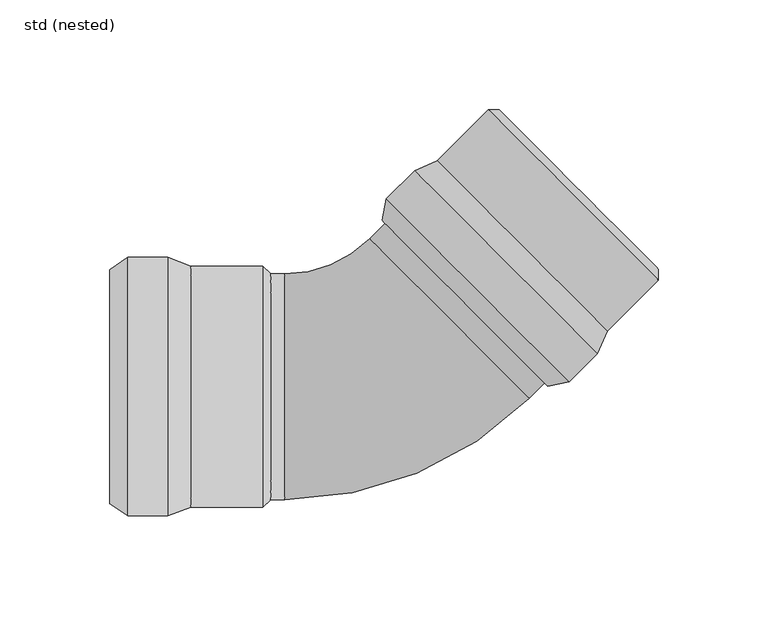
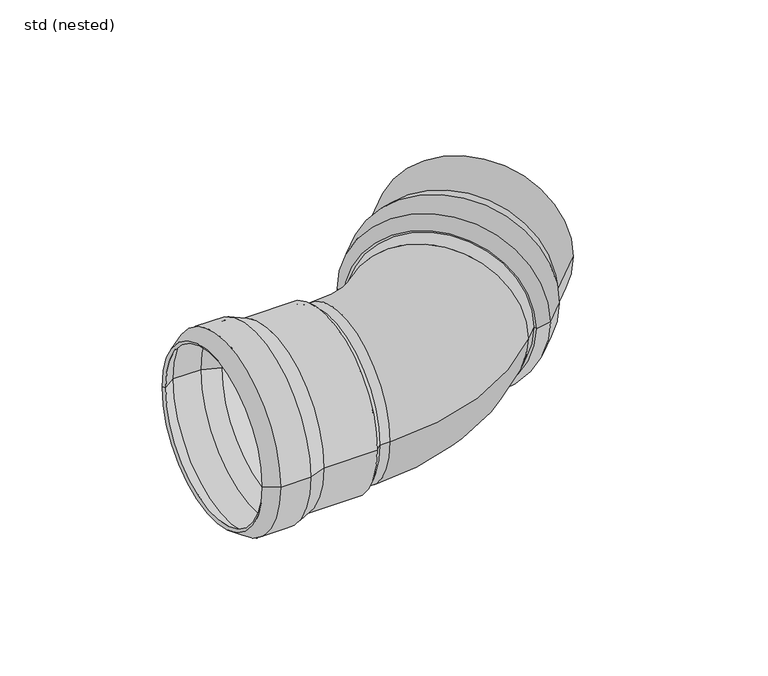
"""IFC4 building model written with IfcOpenShell, lengths in millimetres: pipe fitting geometry, ZZZ_do not use_PIF_ST_UN_GM-X pipe bend_ACO : std (nested)."""

from ifc_helpers import new_model, si_unit, point, frame, origin, place, context, project, spatial, polyline, circle_curve, ellipse_curve, trimmed, source, transform, mapped, element, save
from ifc_brep_helpers import plane_surface, cylinder_surface, revolved_surface, advanced_brep


def std_nested_ee2d5be1(model_context):
    return source(origin(), model_context, "Body", "AdvancedBrep", [
        advanced_brep(
        [(15.2631369, 98.6320772, 0.0), (98.6506778, 15.142449, 0.0), (85.773464, 2.2809808, 0.0), (2.3859231, 85.770609, 0.0), (25.518995, 103.2219981, 0.0), (103.2531434, 25.3926837, 0.0), (76.014181, 0.3070517, 0.0), (0.4000549, 76.0137485, 0.0), (48.8677894, 126.5422426, 0.0), (126.6019377, 48.7129282, 0.0), (53.8175359, 126.5392146, 0.0), (126.6049657, 53.6626747, 0.0), (51.3411486, 124.0658553, 0.0), (124.1285784, 51.1893155, 0.0), (26.6719325, 101.5468274, 0.0), (101.5793845, 26.5476698, 0.0), (125.1885895, 50.1280066, 0.0), (50.2811375, 125.1271642, 0.0), (16.4160743, 96.9569065, 0.0), (96.976919, 16.2974352, 0.0), (4.2255719, 84.78131, 0.0), (84.7864165, 4.1218387, 0.0), (2.3598725, 75.6148559, 0.0), (75.6176866, 2.2673558, 0.0)],
        [
            (0, 1, circle_curve(frame((56.9569074, 56.8872631, 0.0), z_axis=(-0.7075392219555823, -0.7066740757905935, 0.0), x_axis=(0.7066740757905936, -0.7075392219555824, 0.0)), 59.0)),
            (1, 2),
            (2, 3, circle_curve(frame((44.0796935, 44.0257949, 0.0), z_axis=(0.7075392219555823, 0.7066740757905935, 0.0), x_axis=(0.7066740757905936, -0.7075392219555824, 0.0)), 59.0)),
            (3, 0),
            (1, 0, circle_curve(frame((56.9569074, 56.8872631, 0.0), z_axis=(-0.7075392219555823, -0.7066740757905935, 0.0), x_axis=(0.7066740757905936, -0.7075392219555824, 0.0)), 59.0)),
            (3, 2, circle_curve(frame((44.0796935, 44.0257949, 0.0), z_axis=(0.7075392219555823, 0.7066740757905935, 0.0), x_axis=(0.7066740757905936, -0.7075392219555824, 0.0)), 59.0)),
            (4, 5, circle_curve(frame((64.3860692, 64.3073409, 0.0), z_axis=(-0.7075392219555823, -0.7066740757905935, 0.0), x_axis=(0.7066740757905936, -0.7075392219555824, 0.0)), 55.0)),
            (5, 1),
            (0, 4),
            (5, 4, circle_curve(frame((64.3860692, 64.3073409, 0.0), z_axis=(-0.7075392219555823, -0.7066740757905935, 0.0), x_axis=(0.7066740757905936, -0.7075392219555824, 0.0)), 55.0)),
            (2, 6),
            (6, 7, circle_curve(frame((38.207118, 38.1604001, 0.0), z_axis=(0.7075392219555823, 0.7066740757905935, 0.0), x_axis=(0.7066740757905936, -0.7075392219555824, 0.0)), 53.5)),
            (7, 3),
            (7, 6, circle_curve(frame((38.207118, 38.1604001, 0.0), z_axis=(0.7075392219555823, 0.7066740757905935, 0.0), x_axis=(0.7066740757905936, -0.7075392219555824, 0.0)), 53.5)),
            (8, 9, circle_curve(frame((87.7348635, 87.6275854, 0.0), z_axis=(-0.7075392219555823, -0.7066740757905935, 0.0), x_axis=(0.7066740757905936, -0.7075392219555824, 0.0)), 55.0)),
            (9, 5),
            (4, 8),
            (9, 8, circle_curve(frame((87.7348635, 87.6275854, 0.0), z_axis=(-0.7075392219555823, -0.7066740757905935, 0.0), x_axis=(0.7066740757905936, -0.7075392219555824, 0.0)), 55.0)),
            (10, 11, circle_curve(frame((90.2112508, 90.1009447, 0.0), z_axis=(-0.7075392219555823, -0.7066740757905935, 0.0), x_axis=(0.7066740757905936, -0.7075392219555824, 0.0)), 51.5)),
            (11, 9),
            (8, 10),
            (11, 10, circle_curve(frame((90.2112508, 90.1009447, 0.0), z_axis=(-0.7075392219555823, -0.7066740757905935, 0.0), x_axis=(0.7066740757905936, -0.7075392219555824, 0.0)), 51.5)),
            (12, 13, circle_curve(frame((87.7348635, 87.6275854, 0.0), z_axis=(-0.7075392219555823, -0.7066740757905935, 0.0), x_axis=(0.7066740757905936, -0.7075392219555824, 0.0)), 51.5)),
            (13, 11),
            (10, 12),
            (13, 12, circle_curve(frame((87.7348635, 87.6275854, 0.0), z_axis=(-0.7075392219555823, -0.7066740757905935, 0.0), x_axis=(0.7066740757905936, -0.7075392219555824, 0.0)), 51.5)),
            (14, 15, circle_curve(frame((64.1256585, 64.0472486, 0.0), z_axis=(-0.7075392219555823, -0.7066740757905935, 0.0), x_axis=(0.7066740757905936, -0.7075392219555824, 0.0)), 53.0)),
            (15, 16),
            (16, 17, circle_curve(frame((87.7348635, 87.6275854, 0.0), z_axis=(0.7075392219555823, 0.7066740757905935, 0.0), x_axis=(0.7066740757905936, -0.7075392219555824, 0.0)), 53.0)),
            (17, 14),
            (15, 14, circle_curve(frame((64.1256585, 64.0472486, 0.0), z_axis=(-0.7075392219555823, -0.7066740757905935, 0.0), x_axis=(0.7066740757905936, -0.7075392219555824, 0.0)), 53.0)),
            (17, 16, circle_curve(frame((87.7348635, 87.6275854, 0.0), z_axis=(0.7075392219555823, 0.7066740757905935, 0.0), x_axis=(0.7066740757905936, -0.7075392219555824, 0.0)), 53.0)),
            (18, 19, circle_curve(frame((56.6964967, 56.6271708, 0.0), z_axis=(-0.7075392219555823, -0.7066740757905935, 0.0), x_axis=(0.7066740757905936, -0.7075392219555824, 0.0)), 57.0)),
            (19, 15),
            (14, 18),
            (19, 18, circle_curve(frame((56.6964967, 56.6271708, 0.0), z_axis=(-0.7075392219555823, -0.7066740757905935, 0.0), x_axis=(0.7066740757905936, -0.7075392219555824, 0.0)), 57.0)),
            (20, 21, circle_curve(frame((44.5059942, 44.4515743, 0.0), z_axis=(-0.7075392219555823, -0.7066740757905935, 0.0), x_axis=(0.7066740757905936, -0.7075392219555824, 0.0)), 57.0)),
            (21, 19),
            (18, 20),
            (21, 20, circle_curve(frame((44.5059942, 44.4515743, 0.0), z_axis=(-0.7075392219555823, -0.7066740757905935, 0.0), x_axis=(0.7066740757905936, -0.7075392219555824, 0.0)), 57.0)),
            (22, 23, circle_curve(frame((38.9887795, 38.9411059, 0.0), z_axis=(-0.7075392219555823, -0.7066740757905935, 0.0), x_axis=(0.7066740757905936, -0.7075392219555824, 0.0)), 51.8328156)),
            (23, 21),
            (20, 22),
            (23, 22, circle_curve(frame((38.9887795, 38.9411059, 0.0), z_axis=(-0.7075392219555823, -0.7066740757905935, 0.0), x_axis=(0.7066740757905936, -0.7075392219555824, 0.0)), 51.8328156)),
            (6, 23),
            (22, 7),
            (16, 13),
            (12, 17),
        ],
        [
            cylinder_surface(frame((40.5813283, 40.5317074, 0.0), z_axis=(0.7075392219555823, 0.7066740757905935, 0.0), x_axis=(0.7066740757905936, -0.7075392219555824, 0.0)), 59.0),
            revolved_surface(polyline([(98.6506778, 15.142449, 0.0), (103.2531434, 25.3926837, 0.0)]), (40.5813283, 40.5317074, 0.0), (0.7075392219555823, 0.7066740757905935, 0.0)),
            revolved_surface(polyline([(76.014181, 0.3070517, 0.0), (85.773464, 2.2809808, 0.0)]), (40.5813283, 40.5317074, 0.0), (0.7075392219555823, 0.7066740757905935, 0.0)),
            cylinder_surface(frame((40.5813283, 40.5317074, 0.0), z_axis=(0.7075392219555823, 0.7066740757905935, 0.0), x_axis=(0.7066740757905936, -0.7075392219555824, 0.0)), 55.0),
            revolved_surface(polyline([(126.6019377, 48.7129282, 0.0), (126.6049657, 53.6626747, 0.0)]), (40.5813283, 40.5317074, 0.0), (0.7075392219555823, 0.7066740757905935, 0.0)),
            revolved_surface(polyline([(126.6049656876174, 53.66267478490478, 0.0), (124.12857836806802, 51.189315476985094, 0.0)]), (40.5813283, 40.5317074, 0.0), (0.7075392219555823, 0.7066740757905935, 0.0)),
            revolved_surface(polyline([(125.18858952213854, 50.12800668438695, 0.0), (101.57938444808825, 26.547669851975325, 0.0)]), (40.5813283, 40.5317074, 0.0), (0.7075392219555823, 0.7066740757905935, 0.0)),
            revolved_surface(polyline([(101.5793845, 26.5476698, 0.0), (96.976919, 16.2974352, 0.0)]), (40.5813283, 40.5317074, 0.0), (0.7075392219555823, 0.7066740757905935, 0.0)),
            revolved_surface(polyline([(96.97691897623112, 16.297435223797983, 0.0), (84.78641646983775, 4.121838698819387, 0.0)]), (40.5813283, 40.5317074, 0.0), (0.7075392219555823, 0.7066740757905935, 0.0)),
            revolved_surface(polyline([(84.7864165, 4.1218387, 0.0), (75.6176866, 2.2673558, 0.0)]), (40.5813283, 40.5317074, 0.0), (0.7075392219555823, 0.7066740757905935, 0.0)),
            revolved_surface(polyline([(75.6176866, 2.2673558, 0.0), (76.014181, 0.3070517, 0.0)]), (40.5813283, 40.5317074, 0.0), (0.7075392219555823, 0.7066740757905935, 0.0)),
            plane_surface(frame((87.7348635, 87.6275854, 0.0), z_axis=(-0.7075392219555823, -0.7066740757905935, 0.0), x_axis=(0.7066740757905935, -0.7075392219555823, 0.0))),
        ],
        [
            (0, [[1, 2, 3, 4]]),
            (0, [[5, -4, 6, -2]]),
            (1, [[7, 8, -1, 9]]),
            (1, [[10, -9, -5, -8]]),
            (2, [[-3, 11, 12, 13]]),
            (2, [[-6, -13, 14, -11]]),
            (3, [[15, 16, -7, 17]]),
            (3, [[18, -17, -10, -16]]),
            (4, [[19, 20, -15, 21]]),
            (4, [[22, -21, -18, -20]]),
            (5, [[23, 24, -19, 25]]),
            (5, [[26, -25, -22, -24]]),
            (6, [[27, 28, 29, 30]]),
            (6, [[31, -30, 32, -28]]),
            (7, [[33, 34, -27, 35]]),
            (7, [[36, -35, -31, -34]]),
            (8, [[37, 38, -33, 39]]),
            (8, [[40, -39, -36, -38]]),
            (9, [[41, 42, -37, 43]]),
            (9, [[44, -43, -40, -42]]),
            (10, [[-12, 45, -41, 46]]),
            (10, [[-14, -46, -44, -45]]),
            (11, [[-29, 47, -23, 48]]),
            (11, [[-32, -48, -26, -47]]),
        ],
    ),
        advanced_brep(
        [(-97.5, 59.0, 0.0), (-97.5, -59.0, 0.0), (-115.7, -59.0, 0.0), (-115.7, 59.0, 0.0), (-87.0, 55.0, 0.0), (-87.0, -55.0, 0.0), (-124.0, -53.5, 0.0), (-124.0, 53.5, 0.0), (-54.0, 55.0, 0.0), (-54.0, -55.0, 0.0), (-50.5, 51.5, 0.0), (-50.5, -51.5, 0.0), (-54.0, 51.5, 0.0), (-54.0, -51.5, 0.0), (-87.3680513, 53.0, 0.0), (-87.3680513, -53.0, 0.0), (-54.0, -53.0, 0.0), (-54.0, 53.0, 0.0), (-97.8680513, 57.0, 0.0), (-97.8680513, -57.0, 0.0), (-115.0974883, 57.0, 0.0), (-115.0974883, -57.0, 0.0), (-122.8952393, 51.8328156, 0.0), (-122.8952393, -51.8328156, 0.0)],
        [
            (0, 1, circle_curve(frame((-97.5, 0.0, 0.0), z_axis=(-1.0, 0.0, 0.0), x_axis=(0.0, -1.0, 0.0)), 59.0)),
            (1, 2),
            (2, 3, circle_curve(frame((-115.7, 0.0, 0.0), z_axis=(1.0, 0.0, 0.0), x_axis=(0.0, -1.0, 0.0)), 59.0)),
            (3, 0),
            (1, 0, circle_curve(frame((-97.5, 0.0, 0.0), z_axis=(-1.0, 0.0, 0.0), x_axis=(0.0, -1.0, 0.0)), 59.0)),
            (3, 2, circle_curve(frame((-115.7, 0.0, 0.0), z_axis=(1.0, 0.0, 0.0), x_axis=(0.0, -1.0, 0.0)), 59.0)),
            (4, 5, circle_curve(frame((-87.0, 0.0, 0.0), z_axis=(-1.0, 0.0, 0.0), x_axis=(0.0, -1.0, 0.0)), 55.0)),
            (5, 1),
            (0, 4),
            (5, 4, circle_curve(frame((-87.0, 0.0, 0.0), z_axis=(-1.0, 0.0, 0.0), x_axis=(0.0, -1.0, 0.0)), 55.0)),
            (2, 6),
            (6, 7, circle_curve(frame((-124.0, 0.0, 0.0), z_axis=(1.0, 0.0, 0.0), x_axis=(0.0, -1.0, 0.0)), 53.5)),
            (7, 3),
            (7, 6, circle_curve(frame((-124.0, 0.0, 0.0), z_axis=(1.0, 0.0, 0.0), x_axis=(0.0, -1.0, 0.0)), 53.5)),
            (8, 9, circle_curve(frame((-54.0, 0.0, 0.0), z_axis=(-1.0, 0.0, 0.0), x_axis=(0.0, -1.0, 0.0)), 55.0)),
            (9, 5),
            (4, 8),
            (9, 8, circle_curve(frame((-54.0, 0.0, 0.0), z_axis=(-1.0, 0.0, 0.0), x_axis=(0.0, -1.0, 0.0)), 55.0)),
            (10, 11, circle_curve(frame((-50.5, 0.0, 0.0), z_axis=(-1.0, 0.0, 0.0), x_axis=(0.0, -1.0, 0.0)), 51.5)),
            (11, 9),
            (8, 10),
            (11, 10, circle_curve(frame((-50.5, 0.0, 0.0), z_axis=(-1.0, 0.0, 0.0), x_axis=(0.0, -1.0, 0.0)), 51.5)),
            (12, 13, circle_curve(frame((-54.0, 0.0, 0.0), z_axis=(-1.0, 0.0, 0.0), x_axis=(0.0, -1.0, 0.0)), 51.5)),
            (13, 11),
            (10, 12),
            (13, 12, circle_curve(frame((-54.0, 0.0, 0.0), z_axis=(-1.0, 0.0, 0.0), x_axis=(0.0, -1.0, 0.0)), 51.5)),
            (14, 15, circle_curve(frame((-87.3680513, 0.0, 0.0), z_axis=(-1.0, 0.0, 0.0), x_axis=(0.0, -1.0, 0.0)), 53.0)),
            (15, 16),
            (16, 17, circle_curve(frame((-54.0, 0.0, 0.0), z_axis=(1.0, 0.0, 0.0), x_axis=(0.0, -1.0, 0.0)), 53.0)),
            (17, 14),
            (15, 14, circle_curve(frame((-87.3680513, 0.0, 0.0), z_axis=(-1.0, 0.0, 0.0), x_axis=(0.0, -1.0, 0.0)), 53.0)),
            (17, 16, circle_curve(frame((-54.0, 0.0, 0.0), z_axis=(1.0, 0.0, 0.0), x_axis=(0.0, -1.0, 0.0)), 53.0)),
            (18, 19, circle_curve(frame((-97.8680513, 0.0, 0.0), z_axis=(-1.0, 0.0, 0.0), x_axis=(0.0, -1.0, 0.0)), 57.0)),
            (19, 15),
            (14, 18),
            (19, 18, circle_curve(frame((-97.8680513, 0.0, 0.0), z_axis=(-1.0, 0.0, 0.0), x_axis=(0.0, -1.0, 0.0)), 57.0)),
            (20, 21, circle_curve(frame((-115.0974883, 0.0, 0.0), z_axis=(-1.0, 0.0, 0.0), x_axis=(0.0, -1.0, 0.0)), 57.0)),
            (21, 19),
            (18, 20),
            (21, 20, circle_curve(frame((-115.0974883, 0.0, 0.0), z_axis=(-1.0, 0.0, 0.0), x_axis=(0.0, -1.0, 0.0)), 57.0)),
            (22, 23, circle_curve(frame((-122.8952393, 0.0, 0.0), z_axis=(-1.0, 0.0, 0.0), x_axis=(0.0, -1.0, 0.0)), 51.8328156)),
            (23, 21),
            (20, 22),
            (23, 22, circle_curve(frame((-122.8952393, 0.0, 0.0), z_axis=(-1.0, 0.0, 0.0), x_axis=(0.0, -1.0, 0.0)), 51.8328156)),
            (6, 23),
            (22, 7),
            (16, 13),
            (12, 17),
        ],
        [
            cylinder_surface(frame((-120.6444117, 0.0, 0.0), z_axis=(1.0, 0.0, 0.0), x_axis=(0.0, -1.0, 0.0)), 59.0),
            revolved_surface(polyline([(-97.5, -59.0, 0.0), (-87.0, -55.0, 0.0)]), (-120.6444117, 0.0, 0.0), (1.0, 0.0, 0.0)),
            revolved_surface(polyline([(-124.0, -53.5, 0.0), (-115.7, -59.0, 0.0)]), (-120.6444117, 0.0, 0.0), (1.0, 0.0, 0.0)),
            cylinder_surface(frame((-120.6444117, 0.0, 0.0), z_axis=(1.0, 0.0, 0.0), x_axis=(0.0, -1.0, 0.0)), 55.0),
            revolved_surface(polyline([(-54.0, -55.0, 0.0), (-50.5, -51.5, 0.0)]), (-120.6444117, 0.0, 0.0), (1.0, 0.0, 0.0)),
            revolved_surface(polyline([(-50.5, -51.5, 0.0), (-54.0, -51.5, 0.0)]), (-120.6444117, 0.0, 0.0), (1.0, 0.0, 0.0)),
            revolved_surface(polyline([(-54.0, -53.0, 0.0), (-87.3680513, -53.0, 0.0)]), (-120.6444117, 0.0, 0.0), (1.0, 0.0, 0.0)),
            revolved_surface(polyline([(-87.3680513, -53.0, 0.0), (-97.8680513, -57.0, 0.0)]), (-120.6444117, 0.0, 0.0), (1.0, 0.0, 0.0)),
            revolved_surface(polyline([(-97.8680513, -57.0, 0.0), (-115.0974883, -57.0, 0.0)]), (-120.6444117, 0.0, 0.0), (1.0, 0.0, 0.0)),
            revolved_surface(polyline([(-115.0974883, -57.0, 0.0), (-122.8952393, -51.8328156, 0.0)]), (-120.6444117, 0.0, 0.0), (1.0, 0.0, 0.0)),
            revolved_surface(polyline([(-122.8952393, -51.8328156, 0.0), (-124.0, -53.5, 0.0)]), (-120.6444117, 0.0, 0.0), (1.0, 0.0, 0.0)),
            plane_surface(frame((-54.0, 0.0, 0.0), z_axis=(-1.0, 0.0, 0.0), x_axis=(0.0, -1.0, 0.0))),
        ],
        [
            (0, [[1, 2, 3, 4]]),
            (0, [[5, -4, 6, -2]]),
            (1, [[7, 8, -1, 9]]),
            (1, [[10, -9, -5, -8]]),
            (2, [[-3, 11, 12, 13]]),
            (2, [[-6, -13, 14, -11]]),
            (3, [[15, 16, -7, 17]]),
            (3, [[18, -17, -10, -16]]),
            (4, [[19, 20, -15, 21]]),
            (4, [[22, -21, -18, -20]]),
            (5, [[23, 24, -19, 25]]),
            (5, [[26, -25, -22, -24]]),
            (6, [[27, 28, 29, 30]]),
            (6, [[31, -30, 32, -28]]),
            (7, [[33, 34, -27, 35]]),
            (7, [[36, -35, -31, -34]]),
            (8, [[37, 38, -33, 39]]),
            (8, [[40, -39, -36, -38]]),
            (9, [[41, 42, -37, 43]]),
            (9, [[44, -43, -40, -42]]),
            (10, [[-12, 45, -41, 46]]),
            (10, [[-14, -46, -44, -45]]),
            (11, [[-29, 47, -23, 48]]),
            (11, [[-32, -48, -26, -47]]),
        ],
    ),
        advanced_brep(
        [(-5.2619891, 67.5319293, 0.0), (-44.0, 51.5, 0.0), (-44.0, -51.5, 0.0), (67.5254407, -5.3446106, 0.0), (31.1317258, 31.0936593, 51.5), (31.1317258, 31.0936593, -51.5), (-54.0, -51.5, 0.0), (-54.0, 51.5, 0.0), (124.1285784, 51.1893155, 0.0), (51.3411486, 124.0658553, 0.0)],
        [
            (0, 1, circle_curve(frame((-44.0, 106.3173652, 0.0), z_axis=(0.0, 0.0, -1.0), x_axis=(0.0, -1.0, 0.0)), 54.8173652)),
            (1, 2, circle_curve(frame((-44.0, 0.0, 0.0), z_axis=(1.0, 0.0, 0.0), x_axis=(0.0, 1.0, 0.0)), 51.5)),
            (2, 3, circle_curve(frame((-44.0, 106.3173652, 0.0), z_axis=(0.0, 0.0, 1.0), x_axis=(0.0, -1.0, 0.0)), 157.8173652)),
            (3, 4, circle_curve(frame((31.1317258, 31.0936593, 0.0), z_axis=(-0.707539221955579, -0.7066740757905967, 0.0), x_axis=(-0.7066740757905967, 0.707539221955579, 0.0)), 51.5)),
            (4, 0, circle_curve(frame((31.1317258, 31.0936593, 0.0), z_axis=(-0.707539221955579, -0.7066740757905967, 0.0), x_axis=(-0.7066740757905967, 0.707539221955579, 0.0)), 51.5)),
            (0, 5, circle_curve(frame((31.1317258, 31.0936593, 0.0), z_axis=(-0.707539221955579, -0.7066740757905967, 0.0), x_axis=(-0.7066740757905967, 0.707539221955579, 0.0)), 51.5)),
            (5, 3, circle_curve(frame((31.1317258, 31.0936593, 0.0), z_axis=(-0.7075392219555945, -0.7066740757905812, 0.0), x_axis=(-0.7066740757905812, 0.7075392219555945, 0.0)), 51.5)),
            (2, 1, circle_curve(frame((-44.0, 0.0, 0.0), z_axis=(1.0, 0.0, 0.0), x_axis=(0.0, 1.0, 0.0)), 51.5)),
            (6, 7, circle_curve(frame((-54.0, 0.0, 0.0), z_axis=(-1.0, 0.0, 0.0), x_axis=(0.0, 1.0, 0.0)), 51.5)),
            (7, 6, circle_curve(frame((-54.0, 0.0, 0.0), z_axis=(-1.0, 0.0, 0.0), x_axis=(0.0, 1.0, 0.0)), 51.5)),
            (7, 1),
            (2, 6),
            (8, 9, circle_curve(frame((87.7348635, 87.6275854, 0.0), z_axis=(0.7075392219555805, 0.7066740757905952, 0.0), x_axis=(-0.7066740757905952, 0.7075392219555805, 0.0)), 51.5)),
            (9, 8, circle_curve(frame((87.7348635, 87.6275854, 0.0), z_axis=(0.7075392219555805, 0.7066740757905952, 0.0), x_axis=(-0.7066740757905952, 0.7075392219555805, 0.0)), 51.5)),
            (9, 0),
            (3, 8),
        ],
        [
            revolved_surface(trimmed(ellipse_curve(frame((-44.0, 0.0, 0.0), z_axis=(-1.0, 0.0, 0.0), x_axis=(0.0, 1.0, 0.0)), 51.5, 51.5), [point((-44.0, -51.5, 0.0))], [point((-44.0, 51.5, 0.0))], True, "CARTESIAN"), (-44.0, 106.3173652, 0.0), (0.0, 0.0, 1.0)),
            revolved_surface(trimmed(ellipse_curve(frame((-44.0, 0.0, 0.0), z_axis=(-1.0, 0.0, 0.0), x_axis=(0.0, 1.0, 0.0)), 51.5, 51.5), [point((-44.0, 51.5, 0.0))], [point((-44.0, -51.5, 0.0))], True, "CARTESIAN"), (-44.0, 106.3173652, 0.0), (0.0, 0.0, 1.0)),
            plane_surface(frame((-54.0, 51.5, 0.0), z_axis=(-1.0, 0.0, 0.0), x_axis=(0.0, 0.0, -1.0))),
            cylinder_surface(frame((-54.0, 0.0, 0.0), z_axis=(1.0, 0.0, 0.0), x_axis=(0.0, 1.0, 0.0)), 51.5),
            plane_surface(frame((87.7348635, 87.6275854, 0.0), z_axis=(0.7075392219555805, 0.7066740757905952, 0.0), x_axis=(0.0, 0.0, 1.0))),
            cylinder_surface(frame((31.1317258, 31.0936593, 0.0), z_axis=(-0.7075392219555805, -0.7066740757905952, 0.0), x_axis=(-0.7066740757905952, 0.7075392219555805, 0.0)), 51.5),
        ],
        [
            (0, [[1, 2, 3, 4, 5]]),
            (1, [[-1, 6, 7, -3, 8]]),
            (2, [[9, 10]]),
            (3, [[-10, 11, -8, 12]]),
            (3, [[-9, -12, -2, -11]]),
            (4, [[13, 14]]),
            (5, [[-14, 15, -5, -4, 16]]),
            (5, [[-13, -16, -7, -6, -15]]),
        ],
    ),
    ])


if __name__ == "__main__":
    model = new_model("IFC4")
    model_context = context("Model", 3, world=origin())
    ifc_project = project(units=[si_unit("LENGTHUNIT", "METRE", prefix="MILLI")], contexts=[model_context])
    site = spatial("IfcSite", under=ifc_project)
    building = spatial("IfcBuilding", under=site)
    placement = place(None, origin())
    std_nested_shape = std_nested_ee2d5be1(model_context)
    element("IfcPipeFitting", 1, ObjectType="ZZZ_do not use_PIF_ST_UN_GM-X pipe bend_ACO : std (nested)", at=placement, inside=building, context=model_context, shape_type="MappedRepresentation", body=[
        mapped(std_nested_shape, transform((0.0, 0.0, 0.0), x_axis=(1.0, 0.0, 0.0), y_axis=(0.0, 1.0, 0.0), z_axis=(0.0, 0.0, 1.0))),
    ])
    save(model, "model.ifc")
